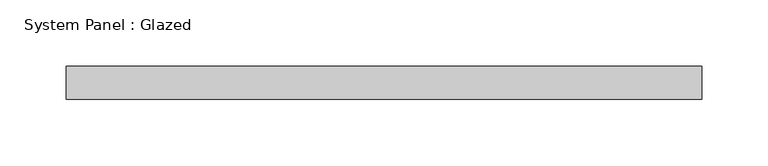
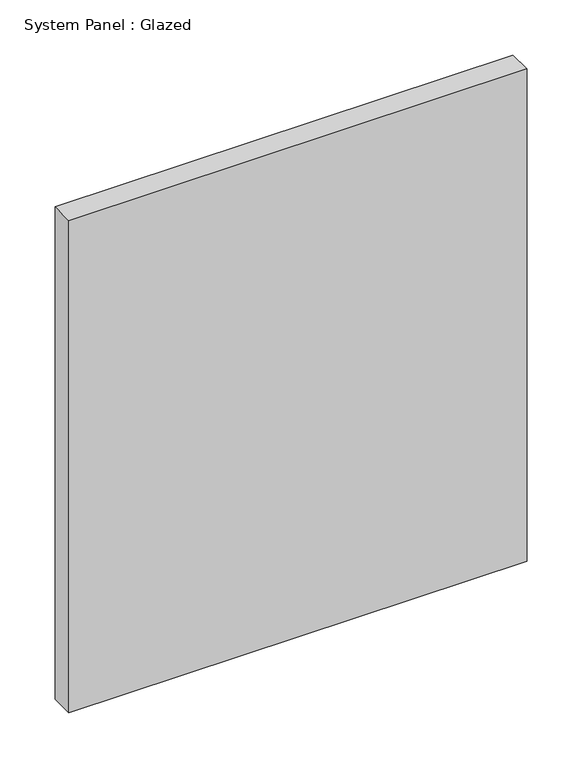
"""IFC4 building model written with IfcOpenShell, lengths in millimetres: plate geometry, System Panel : Glazed."""

from ifc_helpers import new_model, si_unit, origin, origin_with_axes, place, context, project, spatial, polyline, outline, extrude, source, transform, mapped, element, save


def system_panel_glazed_08d62073(model_context):
    return source(origin(), model_context, "Body", "SweptSolid", [
        extrude(outline(polyline([(240.0, -12.5), (-240.0, -12.5), (-240.0, 12.5), (240.0, 12.5), (240.0, -12.5)])), origin_with_axes(), (0.0, 0.0, 1.0), 545.0),
    ])


if __name__ == "__main__":
    model = new_model("IFC4")
    model_context = context("Model", 3, world=origin())
    ifc_project = project(units=[si_unit("LENGTHUNIT", "METRE", prefix="MILLI")], contexts=[model_context])
    site = spatial("IfcSite", under=ifc_project)
    building = spatial("IfcBuilding", under=site)
    placement = place(None, origin())
    system_panel_glazed_shape = system_panel_glazed_08d62073(model_context)
    element("IfcPlate", 1, ObjectType="System Panel : Glazed", at=placement, inside=building, context=model_context, shape_type="MappedRepresentation", body=[
        mapped(system_panel_glazed_shape, transform((0.0, 0.0, 0.0), x_axis=(1.0, 0.0, 0.0), y_axis=(0.0, 1.0, 0.0), z_axis=(0.0, 0.0, 1.0))),
    ])
    save(model, "model.ifc")
